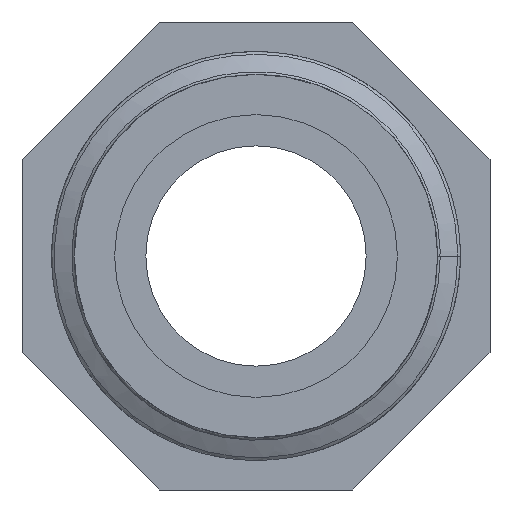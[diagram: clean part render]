
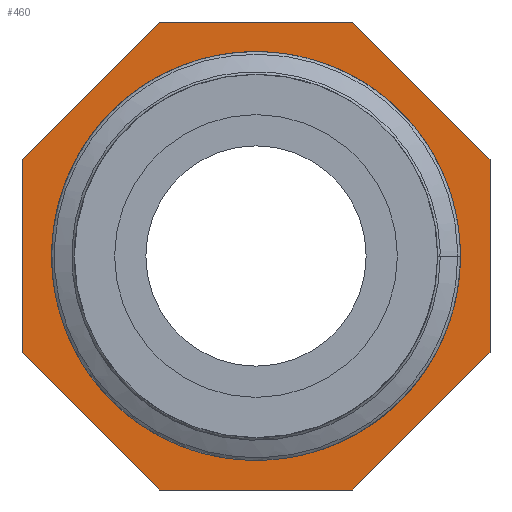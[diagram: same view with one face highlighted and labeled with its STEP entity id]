
A CAD part, front view. The second image highlights one B-rep face of the part: STEP entity #460.
In plain terms, the highlighted planar face has unit normal (0, -1, 0).
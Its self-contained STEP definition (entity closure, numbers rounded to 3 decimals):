
#22=FACE_BOUND('',#102,.T.);
#30=PLANE('',#491);
#69=FACE_OUTER_BOUND('',#101,.T.);
#101=EDGE_LOOP('',(#369,#370,#371,#372,#373,#374,#375,#376));
#102=EDGE_LOOP('',(#377,#378,#379,#380,#381));
#124=LINE('',#7083,#154);
#125=LINE('',#7085,#155);
#126=LINE('',#7087,#156);
#127=LINE('',#7089,#157);
#128=LINE('',#7091,#158);
#129=LINE('',#7093,#159);
#130=LINE('',#7095,#160);
#131=LINE('',#7096,#161);
#154=VECTOR('',#548,9.941);
#155=VECTOR('',#549,9.941);
#156=VECTOR('',#550,9.941);
#157=VECTOR('',#551,9.941);
#158=VECTOR('',#552,9.941);
#159=VECTOR('',#553,9.941);
#160=VECTOR('',#554,9.941);
#161=VECTOR('',#555,9.941);
#178=B_SPLINE_CURVE_WITH_KNOTS('',3,(#1007,#1008,#1009,#1010,#1011,#1012,
#1013,#1014,#1015,#1016,#1017,#1018,#1019),.UNSPECIFIED.,.F.,.F.,(4,3,3,
3,4),(0.,0.137,0.613,1.102,1.603),
 .UNSPECIFIED.);
#181=B_SPLINE_CURVE_WITH_KNOTS('',3,(#1708,#1709,#1710,#1711,#1712,#1713),
 .UNSPECIFIED.,.F.,.F.,(4,2,4),(0.,0.364,0.819),
 .UNSPECIFIED.);
#183=B_SPLINE_CURVE_WITH_KNOTS('',3,(#2532,#2533,#2534,#2535,#2536,#2537,
#2538,#2539),.UNSPECIFIED.,.F.,.F.,(4,2,2,4),(0.,0.21,0.323,
0.444),.UNSPECIFIED.);
#186=B_SPLINE_CURVE_WITH_KNOTS('',3,(#3094,#3095,#3096,#3097,#3098,#3099,
#3100,#3101,#3102,#3103,#3104,#3105,#3106),.UNSPECIFIED.,.F.,.F.,(4,3,3,
3,4),(0.,0.143,0.644,1.132,1.606),
 .UNSPECIFIED.);
#188=B_SPLINE_CURVE_WITH_KNOTS('',3,(#3831,#3832,#3833,#3834,#3835,#3836,
#3837,#3838,#3839,#3840,#3841,#3842),.UNSPECIFIED.,.F.,.F.,(4,2,2,2,2,4),
(0.,0.26,0.498,0.73,0.889,
1.024),.UNSPECIFIED.);
#200=VERTEX_POINT('',#1005);
#201=VERTEX_POINT('',#1006);
#204=VERTEX_POINT('',#1707);
#206=VERTEX_POINT('',#2531);
#209=VERTEX_POINT('',#3093);
#225=VERTEX_POINT('',#7081);
#226=VERTEX_POINT('',#7082);
#227=VERTEX_POINT('',#7084);
#228=VERTEX_POINT('',#7086);
#229=VERTEX_POINT('',#7088);
#230=VERTEX_POINT('',#7090);
#231=VERTEX_POINT('',#7092);
#232=VERTEX_POINT('',#7094);
#242=EDGE_CURVE('',#200,#201,#178,.T.);
#246=EDGE_CURVE('',#204,#200,#181,.T.);
#249=EDGE_CURVE('',#206,#204,#183,.T.);
#253=EDGE_CURVE('',#209,#206,#186,.T.);
#256=EDGE_CURVE('',#201,#209,#188,.T.);
#280=EDGE_CURVE('',#225,#226,#124,.T.);
#281=EDGE_CURVE('',#226,#227,#125,.T.);
#282=EDGE_CURVE('',#227,#228,#126,.T.);
#283=EDGE_CURVE('',#228,#229,#127,.T.);
#284=EDGE_CURVE('',#229,#230,#128,.T.);
#285=EDGE_CURVE('',#230,#231,#129,.T.);
#286=EDGE_CURVE('',#231,#232,#130,.T.);
#287=EDGE_CURVE('',#232,#225,#131,.T.);
#369=ORIENTED_EDGE('',*,*,#280,.T.);
#370=ORIENTED_EDGE('',*,*,#281,.T.);
#371=ORIENTED_EDGE('',*,*,#282,.T.);
#372=ORIENTED_EDGE('',*,*,#283,.T.);
#373=ORIENTED_EDGE('',*,*,#284,.T.);
#374=ORIENTED_EDGE('',*,*,#285,.T.);
#375=ORIENTED_EDGE('',*,*,#286,.T.);
#376=ORIENTED_EDGE('',*,*,#287,.T.);
#377=ORIENTED_EDGE('',*,*,#246,.T.);
#378=ORIENTED_EDGE('',*,*,#242,.T.);
#379=ORIENTED_EDGE('',*,*,#256,.T.);
#380=ORIENTED_EDGE('',*,*,#253,.T.);
#381=ORIENTED_EDGE('',*,*,#249,.T.);
#460=ADVANCED_FACE('',(#69,#22),#30,.T.);
#491=AXIS2_PLACEMENT_3D('',#7080,#546,#547);
#546=DIRECTION('center_axis',(0.,-1.,0.));
#547=DIRECTION('ref_axis',(0.,0.,-1.));
#548=DIRECTION('',(-1.,0.,0.));
#549=DIRECTION('',(-0.707,0.,-0.707));
#550=DIRECTION('',(0.,0.,-1.));
#551=DIRECTION('',(0.707,0.,-0.707));
#552=DIRECTION('',(1.,0.,0.));
#553=DIRECTION('',(0.707,0.,0.707));
#554=DIRECTION('',(0.,0.,1.));
#555=DIRECTION('',(-0.707,0.,0.707));
#1005=CARTESIAN_POINT('',(-7.301,-6.,-5.998));
#1006=CARTESIAN_POINT('',(-6.211,-6.,8.272));
#1007=CARTESIAN_POINT('Ctrl Pts',(-7.301,-6.,-5.998));
#1008=CARTESIAN_POINT('Ctrl Pts',(-7.611,-6.,-5.663));
#1009=CARTESIAN_POINT('Ctrl Pts',(-7.896,-6.,-5.308));
#1010=CARTESIAN_POINT('Ctrl Pts',(-8.153,-6.,-4.934));
#1011=CARTESIAN_POINT('Ctrl Pts',(-9.048,-6.,-3.632));
#1012=CARTESIAN_POINT('Ctrl Pts',(-9.613,-6.,-2.099));
#1013=CARTESIAN_POINT('Ctrl Pts',(-9.787,-6.,-0.528));
#1014=CARTESIAN_POINT('Ctrl Pts',(-9.966,-6.,1.086));
#1015=CARTESIAN_POINT('Ctrl Pts',(-9.736,-6.,2.747));
#1016=CARTESIAN_POINT('Ctrl Pts',(-9.129,-6.,4.258));
#1017=CARTESIAN_POINT('Ctrl Pts',(-8.508,-6.,5.807));
#1018=CARTESIAN_POINT('Ctrl Pts',(-7.493,-6.,7.198));
#1019=CARTESIAN_POINT('Ctrl Pts',(-6.211,-6.,8.272));
#1707=CARTESIAN_POINT('',(-1.11,-6.,-9.248));
#1708=CARTESIAN_POINT('Ctrl Pts',(-1.111,-6.,-9.249));
#1709=CARTESIAN_POINT('Ctrl Pts',(-2.316,-6.,-9.104));
#1710=CARTESIAN_POINT('Ctrl Pts',(-3.48,-6.,-8.734));
#1711=CARTESIAN_POINT('Ctrl Pts',(-5.888,-6.,-7.44));
#1712=CARTESIAN_POINT('Ctrl Pts',(-6.778,-6.,-6.564));
#1713=CARTESIAN_POINT('Ctrl Pts',(-7.301,-6.,-5.998));
#2531=CARTESIAN_POINT('',(5.673,-6.,-7.556));
#2532=CARTESIAN_POINT('Ctrl Pts',(5.674,-6.,-7.556));
#2533=CARTESIAN_POINT('Ctrl Pts',(5.089,-6.,-7.944));
#2534=CARTESIAN_POINT('Ctrl Pts',(4.196,-6.,-8.476));
#2535=CARTESIAN_POINT('Ctrl Pts',(2.367,-6.,-9.059));
#2536=CARTESIAN_POINT('Ctrl Pts',(1.711,-6.,-9.197));
#2537=CARTESIAN_POINT('Ctrl Pts',(0.328,-6.,-9.341));
#2538=CARTESIAN_POINT('Ctrl Pts',(-0.395,-6.,-9.335));
#2539=CARTESIAN_POINT('Ctrl Pts',(-1.111,-6.,-9.249));
#3093=CARTESIAN_POINT('',(7.993,-6.,6.567));
#3094=CARTESIAN_POINT('Ctrl Pts',(7.993,-6.,6.567));
#3095=CARTESIAN_POINT('Ctrl Pts',(8.275,-6.,6.184));
#3096=CARTESIAN_POINT('Ctrl Pts',(8.53,-6.,5.783));
#3097=CARTESIAN_POINT('Ctrl Pts',(8.755,-6.,5.367));
#3098=CARTESIAN_POINT('Ctrl Pts',(9.547,-6.,3.904));
#3099=CARTESIAN_POINT('Ctrl Pts',(9.976,-6.,2.239));
#3100=CARTESIAN_POINT('Ctrl Pts',(9.979,-6.,0.577));
#3101=CARTESIAN_POINT('Ctrl Pts',(9.983,-6.,-1.042));
#3102=CARTESIAN_POINT('Ctrl Pts',(9.585,-6.,-2.664));
#3103=CARTESIAN_POINT('Ctrl Pts',(8.819,-6.,-4.093));
#3104=CARTESIAN_POINT('Ctrl Pts',(8.077,-6.,-5.481));
#3105=CARTESIAN_POINT('Ctrl Pts',(6.988,-6.,-6.685));
#3106=CARTESIAN_POINT('Ctrl Pts',(5.674,-6.,-7.556));
#3831=CARTESIAN_POINT('Ctrl Pts',(-6.211,-6.,8.272));
#3832=CARTESIAN_POINT('Ctrl Pts',(-5.548,-6.,8.828));
#3833=CARTESIAN_POINT('Ctrl Pts',(-4.519,-6.,9.504));
#3834=CARTESIAN_POINT('Ctrl Pts',(-1.883,-6.,10.382));
#3835=CARTESIAN_POINT('Ctrl Pts',(-0.546,-6.,10.546));
#3836=CARTESIAN_POINT('Ctrl Pts',(2.073,-6.,10.354));
#3837=CARTESIAN_POINT('Ctrl Pts',(3.335,-6.,10.013));
#3838=CARTESIAN_POINT('Ctrl Pts',(5.294,-6.,9.054));
#3839=CARTESIAN_POINT('Ctrl Pts',(6.038,-6.,8.558));
#3840=CARTESIAN_POINT('Ctrl Pts',(7.265,-6.,7.472));
#3841=CARTESIAN_POINT('Ctrl Pts',(7.688,-6.,6.981));
#3842=CARTESIAN_POINT('Ctrl Pts',(7.993,-6.,6.567));
#7080=CARTESIAN_POINT('Origin',(0.,-6.,0.));
#7081=CARTESIAN_POINT('',(4.971,-6.,12.));
#7082=CARTESIAN_POINT('',(-4.971,-6.,12.));
#7083=CARTESIAN_POINT('',(4.971,-6.,12.));
#7084=CARTESIAN_POINT('',(-12.,-6.,4.971));
#7085=CARTESIAN_POINT('',(-4.971,-6.,12.));
#7086=CARTESIAN_POINT('',(-12.,-6.,-4.971));
#7087=CARTESIAN_POINT('',(-12.,-6.,4.971));
#7088=CARTESIAN_POINT('',(-4.971,-6.,-12.));
#7089=CARTESIAN_POINT('',(-12.,-6.,-4.971));
#7090=CARTESIAN_POINT('',(4.971,-6.,-12.));
#7091=CARTESIAN_POINT('',(-4.971,-6.,-12.));
#7092=CARTESIAN_POINT('',(12.,-6.,-4.971));
#7093=CARTESIAN_POINT('',(4.971,-6.,-12.));
#7094=CARTESIAN_POINT('',(12.,-6.,4.971));
#7095=CARTESIAN_POINT('',(12.,-6.,-4.971));
#7096=CARTESIAN_POINT('',(12.,-6.,4.971));
